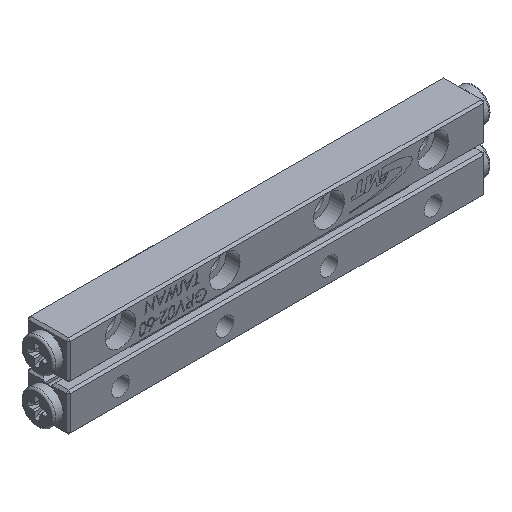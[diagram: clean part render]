
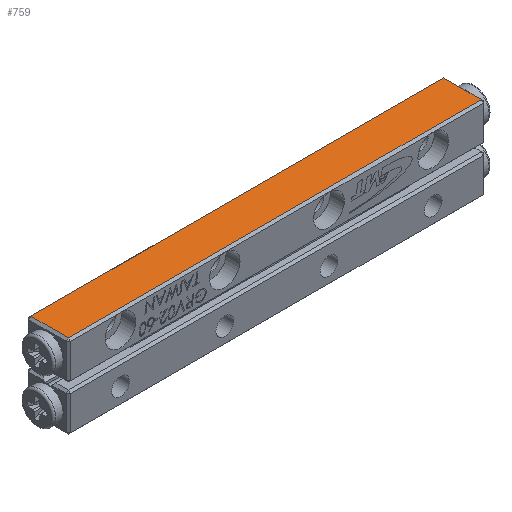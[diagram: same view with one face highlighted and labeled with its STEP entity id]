
A CAD part, isometric view. The second image highlights one B-rep face of the part: STEP entity #759.
In plain terms, the highlighted planar face has unit normal (0, 0, 1) as drawn and (0, 0, -1) by its records, which use the part's own axes.
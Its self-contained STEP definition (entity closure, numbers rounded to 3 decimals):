
#133 = DIRECTION ( 'NONE',  ( -1., 0., 0. ) ) ;
#359 = EDGE_CURVE ( 'NONE', #6735, #16506, #4442, .T. ) ;
#508 = EDGE_LOOP ( 'NONE', ( #12371, #13634, #4389, #514 ) ) ;
#514 = ORIENTED_EDGE ( 'NONE', *, *, #3303, .T. ) ;
#527 = CARTESIAN_POINT ( 'NONE',  ( 30., 2.7, 0. ) ) ;
#751 = CARTESIAN_POINT ( 'NONE',  ( 30., 3., 0. ) ) ;
#759 = ADVANCED_FACE ( 'NONE', ( #11809 ), #13451, .F. ) ;
#838 = DIRECTION ( 'NONE',  ( 0., -1., 0. ) ) ;
#1465 = DIRECTION ( 'NONE',  ( 0., -1., 0. ) ) ;
#1626 = CARTESIAN_POINT ( 'NONE',  ( -29.7, -2.7, 0. ) ) ;
#2016 = LINE ( 'NONE', #3756, #4176 ) ;
#2514 = CARTESIAN_POINT ( 'NONE',  ( 29.7, -2.7, 0. ) ) ;
#3112 = CARTESIAN_POINT ( 'NONE',  ( 29.7, -3., 0. ) ) ;
#3246 = VECTOR ( 'NONE', #133, 1000. ) ;
#3303 = EDGE_CURVE ( 'NONE', #17194, #10666, #10212, .T. ) ;
#3756 = CARTESIAN_POINT ( 'NONE',  ( -29.7, 3., 0. ) ) ;
#4176 = VECTOR ( 'NONE', #9032, 1000. ) ;
#4389 = ORIENTED_EDGE ( 'NONE', *, *, #14034, .T. ) ;
#4442 = LINE ( 'NONE', #12759, #3246 ) ;
#5864 = LINE ( 'NONE', #3112, #8931 ) ;
#6735 = VERTEX_POINT ( 'NONE', #2514 ) ;
#8894 = CARTESIAN_POINT ( 'NONE',  ( -29.7, 2.7, 0. ) ) ;
#8928 = EDGE_CURVE ( 'NONE', #10666, #6735, #5864, .T. ) ;
#8931 = VECTOR ( 'NONE', #1465, 1000. ) ;
#9032 = DIRECTION ( 'NONE',  ( 0., 1., 0. ) ) ;
#9127 = DIRECTION ( 'NONE',  ( 0., 0., 1. ) ) ;
#9144 = AXIS2_PLACEMENT_3D ( 'NONE', #751, #9127, #838 ) ;
#10022 = DIRECTION ( 'NONE',  ( 1., 0., 0. ) ) ;
#10212 = LINE ( 'NONE', #527, #15903 ) ;
#10666 = VERTEX_POINT ( 'NONE', #15213 ) ;
#11809 = FACE_OUTER_BOUND ( 'NONE', #508, .T. ) ;
#12371 = ORIENTED_EDGE ( 'NONE', *, *, #8928, .T. ) ;
#12759 = CARTESIAN_POINT ( 'NONE',  ( 30., -2.7, 0. ) ) ;
#13451 = PLANE ( 'NONE',  #9144 ) ;
#13634 = ORIENTED_EDGE ( 'NONE', *, *, #359, .T. ) ;
#14034 = EDGE_CURVE ( 'NONE', #16506, #17194, #2016, .T. ) ;
#15213 = CARTESIAN_POINT ( 'NONE',  ( 29.7, 2.7, 0. ) ) ;
#15903 = VECTOR ( 'NONE', #10022, 1000. ) ;
#16506 = VERTEX_POINT ( 'NONE', #1626 ) ;
#17194 = VERTEX_POINT ( 'NONE', #8894 ) ;
